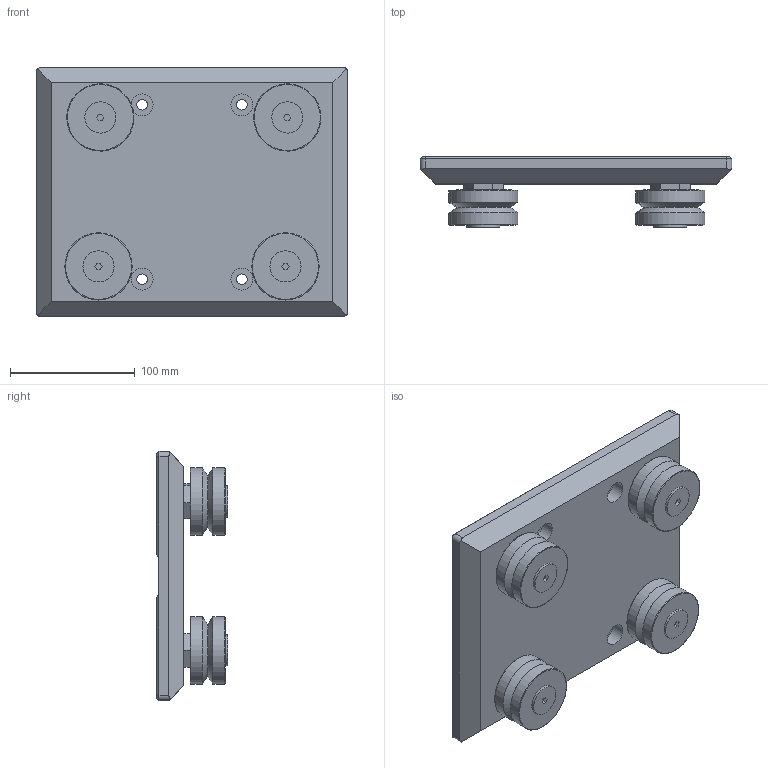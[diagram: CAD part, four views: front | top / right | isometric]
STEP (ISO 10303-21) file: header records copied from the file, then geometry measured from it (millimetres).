
FILE_DESCRIPTION(('STEP AP203'),'1');
FILE_NAME('//192.168.1.1/share/s-4 技術開発/s-4-4_CAD/s-4-4-3_見直し済み/RG 修正済み/RG_TOP/キャリッジプレート/RG-250(GS-76C).step','2022-03-28T02:37:28',(' '),(' '),'Spatial InterOp 3D',' ',' ');
FILE_SCHEMA(('CONFIG_CONTROL_DESIGN'));
Length unit declared in the file: millimetre
Products named in the file (13): 1; 2; 3; 4; 5; 6; 7; 8; 9; 10; 11; 12; 13
Bounding box: 250 x 57 x 200 mm (x, y, z)
Volume: 1244357.3 mm3; surface area: 181387.6 mm2
Topology: 13 solids, 13 shells, 274 faces, 604 edges, 378 vertices
Faces by surface type: plane 150, cone 60, cylinder 52, torus 8, sphere 4
Full cylindrical faces by diameter (mm): 8.5 x4, 12 x4, 14 x12, 15 x4, 17.5 x4, 25 x4, 30 x4, 32 x4, 54 x8
Entity records: 7974 total; most frequent: CARTESIAN_POINT 1741, DIRECTION 1176, ORIENTED_EDGE 1036, EDGE_CURVE 518, AXIS2_PLACEMENT_3D 467, EDGE_LOOP 396, VERTEX_POINT 360, FACE_OUTER_BOUND 332
